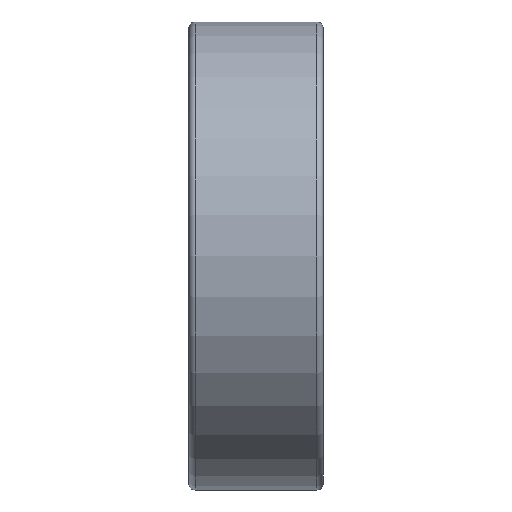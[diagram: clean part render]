
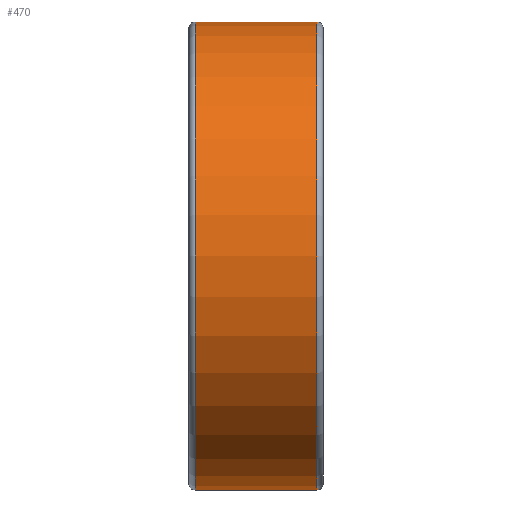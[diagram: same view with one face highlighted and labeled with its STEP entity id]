
A CAD part, left-side view. The second image highlights one B-rep face of the part: STEP entity #470.
In plain terms, the highlighted cylindrical face has radius 40 mm (diameter 80 mm), a full revolution.
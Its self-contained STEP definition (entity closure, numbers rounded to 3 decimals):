
#133=CYLINDRICAL_SURFACE('',#513,40.);
#148=FACE_BOUND('',#215,.T.);
#178=FACE_OUTER_BOUND('',#214,.T.);
#214=EDGE_LOOP('',(#369));
#215=EDGE_LOOP('',(#370));
#273=CIRCLE('',#512,40.);
#274=CIRCLE('',#514,40.);
#304=VERTEX_POINT('',#793);
#305=VERTEX_POINT('',#796);
#335=EDGE_CURVE('',#304,#304,#273,.T.);
#336=EDGE_CURVE('',#305,#305,#274,.T.);
#369=ORIENTED_EDGE('',*,*,#336,.F.);
#370=ORIENTED_EDGE('',*,*,#335,.F.);
#470=ADVANCED_FACE('',(#178,#148),#133,.T.);
#512=AXIS2_PLACEMENT_3D('',#794,#614,#615);
#513=AXIS2_PLACEMENT_3D('',#795,#616,#617);
#514=AXIS2_PLACEMENT_3D('',#797,#618,#619);
#614=DIRECTION('center_axis',(0.,-1.,0.));
#615=DIRECTION('ref_axis',(0.,0.,-1.));
#616=DIRECTION('center_axis',(0.,1.,0.));
#617=DIRECTION('ref_axis',(0.,0.,1.));
#618=DIRECTION('center_axis',(0.,1.,0.));
#619=DIRECTION('ref_axis',(0.,0.,-1.));
#793=CARTESIAN_POINT('',(0.,-21.9,40.));
#794=CARTESIAN_POINT('Origin',(0.,-21.9,0.));
#795=CARTESIAN_POINT('Origin',(0.,-11.5,0.));
#796=CARTESIAN_POINT('',(0.,-1.1,40.));
#797=CARTESIAN_POINT('Origin',(0.,-1.1,0.));
